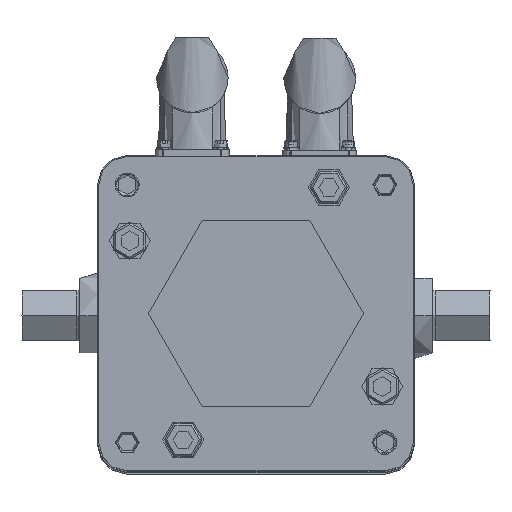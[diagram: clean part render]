
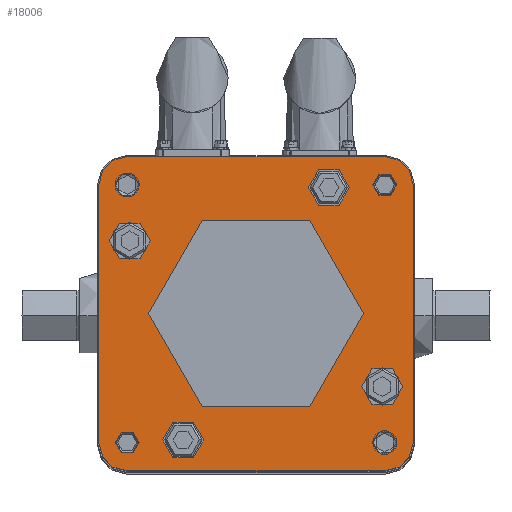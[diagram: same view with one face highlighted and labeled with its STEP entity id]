
A CAD part, top view. The second image highlights one B-rep face of the part: STEP entity #18006.
In plain terms, the highlighted planar face has unit normal (0, 0, 1).
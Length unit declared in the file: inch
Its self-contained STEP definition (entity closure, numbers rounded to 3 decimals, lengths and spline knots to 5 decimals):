
#2749=CARTESIAN_POINT('',(-1.775,-1.775,4.26));
#2750=DIRECTION('',(0.,0.,1.));
#2751=DIRECTION('',(-1.,0.,0.));
#2752=AXIS2_PLACEMENT_3D('',#2749,#2750,#2751);
#2754=CARTESIAN_POINT('',(-1.775,1.775,4.26));
#2755=DIRECTION('',(0.,0.,1.));
#2756=DIRECTION('',(0.,1.,0.));
#2757=AXIS2_PLACEMENT_3D('',#2754,#2755,#2756);
#2759=CARTESIAN_POINT('',(1.775,1.775,4.26));
#2760=DIRECTION('',(0.,0.,1.));
#2761=DIRECTION('',(1.,0.,0.));
#2762=AXIS2_PLACEMENT_3D('',#2759,#2760,#2761);
#2764=CARTESIAN_POINT('',(1.775,-1.775,4.26));
#2765=DIRECTION('',(0.,0.,1.));
#2766=DIRECTION('',(0.,-1.,0.));
#2767=AXIS2_PLACEMENT_3D('',#2764,#2765,#2766);
#2769=CARTESIAN_POINT('',(-1.,-1.73205,4.26));
#2770=DIRECTION('',(0.,0.,-1.));
#2771=DIRECTION('',(-1.,0.,0.));
#2772=AXIS2_PLACEMENT_3D('',#2769,#2770,#2771);
#2774=CARTESIAN_POINT('',(-1.,-1.73205,4.26));
#2775=DIRECTION('',(0.,0.,-1.));
#2776=DIRECTION('',(1.,0.,0.));
#2777=AXIS2_PLACEMENT_3D('',#2774,#2775,#2776);
#2779=CARTESIAN_POINT('',(1.,1.73205,4.26));
#2780=DIRECTION('',(0.,0.,-1.));
#2781=DIRECTION('',(-1.,0.,0.));
#2782=AXIS2_PLACEMENT_3D('',#2779,#2780,#2781);
#2784=CARTESIAN_POINT('',(1.,1.73205,4.26));
#2785=DIRECTION('',(0.,0.,-1.));
#2786=DIRECTION('',(1.,0.,0.));
#2787=AXIS2_PLACEMENT_3D('',#2784,#2785,#2786);
#2789=CARTESIAN_POINT('',(-1.76777,-1.76777,4.26));
#2790=DIRECTION('',(0.,0.,-1.));
#2791=DIRECTION('',(-1.,0.,0.));
#2792=AXIS2_PLACEMENT_3D('',#2789,#2790,#2791);
#2794=CARTESIAN_POINT('',(-1.76777,-1.76777,4.26));
#2795=DIRECTION('',(0.,0.,-1.));
#2796=DIRECTION('',(1.,0.,0.));
#2797=AXIS2_PLACEMENT_3D('',#2794,#2795,#2796);
#2799=CARTESIAN_POINT('',(0.,0.,4.26));
#2800=DIRECTION('',(0.,0.,-1.));
#2801=DIRECTION('',(1.,0.,0.));
#2802=AXIS2_PLACEMENT_3D('',#2799,#2800,#2801);
#2804=CARTESIAN_POINT('',(0.,0.,4.26));
#2805=DIRECTION('',(0.,0.,-1.));
#2806=DIRECTION('',(-1.,0.,0.));
#2807=AXIS2_PLACEMENT_3D('',#2804,#2805,#2806);
#2809=CARTESIAN_POINT('',(1.76777,1.76777,4.26));
#2810=DIRECTION('',(0.,0.,-1.));
#2811=DIRECTION('',(-1.,0.,0.));
#2812=AXIS2_PLACEMENT_3D('',#2809,#2810,#2811);
#2814=CARTESIAN_POINT('',(1.76777,1.76777,4.26));
#2815=DIRECTION('',(0.,0.,-1.));
#2816=DIRECTION('',(1.,0.,0.));
#2817=AXIS2_PLACEMENT_3D('',#2814,#2815,#2816);
#2819=CARTESIAN_POINT('',(1.76777,-1.76777,4.26));
#2820=DIRECTION('',(0.,0.,-1.));
#2821=DIRECTION('',(-1.,0.,0.));
#2822=AXIS2_PLACEMENT_3D('',#2819,#2820,#2821);
#2824=CARTESIAN_POINT('',(1.76777,-1.76777,4.26));
#2825=DIRECTION('',(0.,0.,-1.));
#2826=DIRECTION('',(1.,0.,0.));
#2827=AXIS2_PLACEMENT_3D('',#2824,#2825,#2826);
#2829=CARTESIAN_POINT('',(-1.76777,1.76777,4.26));
#2830=DIRECTION('',(0.,0.,-1.));
#2831=DIRECTION('',(-1.,0.,0.));
#2832=AXIS2_PLACEMENT_3D('',#2829,#2830,#2831);
#2834=CARTESIAN_POINT('',(-1.76777,1.76777,4.26));
#2835=DIRECTION('',(0.,0.,-1.));
#2836=DIRECTION('',(1.,0.,0.));
#2837=AXIS2_PLACEMENT_3D('',#2834,#2835,#2836);
#2839=CARTESIAN_POINT('',(1.73205,-1.,4.26));
#2840=DIRECTION('',(0.,0.,-1.));
#2841=DIRECTION('',(-1.,0.,0.));
#2842=AXIS2_PLACEMENT_3D('',#2839,#2840,#2841);
#2844=CARTESIAN_POINT('',(1.73205,-1.,4.26));
#2845=DIRECTION('',(0.,0.,-1.));
#2846=DIRECTION('',(1.,0.,0.));
#2847=AXIS2_PLACEMENT_3D('',#2844,#2845,#2846);
#2849=CARTESIAN_POINT('',(-1.73205,1.,4.26));
#2850=DIRECTION('',(0.,0.,-1.));
#2851=DIRECTION('',(-1.,0.,0.));
#2852=AXIS2_PLACEMENT_3D('',#2849,#2850,#2851);
#2854=CARTESIAN_POINT('',(-1.73205,1.,4.26));
#2855=DIRECTION('',(0.,0.,-1.));
#2856=DIRECTION('',(1.,0.,0.));
#2857=AXIS2_PLACEMENT_3D('',#2854,#2855,#2856);
#2859=DIRECTION('',(-1.,0.,0.));
#2860=VECTOR('',#2859,3.55);
#2861=CARTESIAN_POINT('',(1.775,-2.155,4.26));
#2862=LINE('',#2861,#2860);
#2919=DIRECTION('',(0.,-1.,0.));
#2920=VECTOR('',#2919,3.55);
#2921=CARTESIAN_POINT('',(2.155,1.775,4.26));
#2922=LINE('',#2921,#2920);
#2931=DIRECTION('',(1.,0.,0.));
#2932=VECTOR('',#2931,3.55);
#2933=CARTESIAN_POINT('',(-1.775,2.155,4.26));
#2934=LINE('',#2933,#2932);
#2943=DIRECTION('',(0.,1.,0.));
#2944=VECTOR('',#2943,3.55);
#2945=CARTESIAN_POINT('',(-2.155,-1.775,4.26));
#2946=LINE('',#2945,#2944);
#16903=CARTESIAN_POINT('',(-2.155,-1.775,4.26));
#16904=CARTESIAN_POINT('',(-1.775,-2.155,4.26));
#16905=VERTEX_POINT('',#16903);
#16906=VERTEX_POINT('',#16904);
#16923=CARTESIAN_POINT('',(-1.93115,1.76777,4.26));
#16924=CARTESIAN_POINT('',(-1.60438,1.76777,4.26));
#16925=VERTEX_POINT('',#16923);
#16926=VERTEX_POINT('',#16924);
#16927=CARTESIAN_POINT('',(1.60438,-1.76777,4.26));
#16928=CARTESIAN_POINT('',(1.93115,-1.76777,4.26));
#16929=VERTEX_POINT('',#16927);
#16930=VERTEX_POINT('',#16928);
#16931=CARTESIAN_POINT('',(1.45079,-1.,4.26));
#16932=CARTESIAN_POINT('',(2.01331,-1.,4.26));
#16933=VERTEX_POINT('',#16931);
#16934=VERTEX_POINT('',#16932);
#16935=CARTESIAN_POINT('',(1.47638,0.,4.26));
#16936=CARTESIAN_POINT('',(-1.47638,0.,4.26));
#16937=VERTEX_POINT('',#16935);
#16938=VERTEX_POINT('',#16936);
#16977=CARTESIAN_POINT('',(-1.775,2.155,4.26));
#16978=CARTESIAN_POINT('',(1.775,2.155,4.26));
#16979=VERTEX_POINT('',#16977);
#16980=VERTEX_POINT('',#16978);
#16981=CARTESIAN_POINT('',(-2.155,1.775,4.26));
#16982=VERTEX_POINT('',#16981);
#16987=CARTESIAN_POINT('',(-1.93115,-1.76777,4.26));
#16988=CARTESIAN_POINT('',(-1.60438,-1.76777,4.26));
#16989=VERTEX_POINT('',#16987);
#16990=VERTEX_POINT('',#16988);
#17013=CARTESIAN_POINT('',(0.71874,1.73205,4.26));
#17014=CARTESIAN_POINT('',(1.28126,1.73205,4.26));
#17015=VERTEX_POINT('',#17013);
#17016=VERTEX_POINT('',#17014);
#17017=CARTESIAN_POINT('',(-2.01331,1.,4.26));
#17018=CARTESIAN_POINT('',(-1.45079,1.,4.26));
#17019=VERTEX_POINT('',#17017);
#17020=VERTEX_POINT('',#17018);
#17021=CARTESIAN_POINT('',(1.60438,1.76777,4.26));
#17022=CARTESIAN_POINT('',(1.93115,1.76777,4.26));
#17023=VERTEX_POINT('',#17021);
#17024=VERTEX_POINT('',#17022);
#17025=CARTESIAN_POINT('',(-1.28126,-1.73205,4.26));
#17026=CARTESIAN_POINT('',(-0.71874,-1.73205,4.26));
#17027=VERTEX_POINT('',#17025);
#17028=VERTEX_POINT('',#17026);
#17031=CARTESIAN_POINT('',(1.775,-2.155,4.26));
#17032=CARTESIAN_POINT('',(2.155,-1.775,4.26));
#17033=VERTEX_POINT('',#17031);
#17034=VERTEX_POINT('',#17032);
#17035=CARTESIAN_POINT('',(2.155,1.775,4.26));
#17036=VERTEX_POINT('',#17035);
#17931=CARTESIAN_POINT('',(2.155,2.155,4.26));
#17932=DIRECTION('',(0.,0.,-1.));
#17933=DIRECTION('',(-1.,0.,0.));
#17934=AXIS2_PLACEMENT_3D('',#17931,#17932,#17933);
#17935=PLANE('',#17934);
#17937=ORIENTED_EDGE('',*,*,#17936,.T.);
#17939=ORIENTED_EDGE('',*,*,#17938,.F.);
#17941=ORIENTED_EDGE('',*,*,#17940,.T.);
#17943=ORIENTED_EDGE('',*,*,#17942,.F.);
#17945=ORIENTED_EDGE('',*,*,#17944,.T.);
#17947=ORIENTED_EDGE('',*,*,#17946,.F.);
#17949=ORIENTED_EDGE('',*,*,#17948,.T.);
#17951=ORIENTED_EDGE('',*,*,#17950,.F.);
#17952=EDGE_LOOP('',(#17937,#17939,#17941,#17943,#17945,#17947,#17949,#17951));
#17953=FACE_OUTER_BOUND('',#17952,.F.);
#17955=ORIENTED_EDGE('',*,*,#17954,.F.);
#17957=ORIENTED_EDGE('',*,*,#17956,.F.);
#17958=EDGE_LOOP('',(#17955,#17957));
#17959=FACE_BOUND('',#17958,.F.);
#17961=ORIENTED_EDGE('',*,*,#17960,.F.);
#17963=ORIENTED_EDGE('',*,*,#17962,.F.);
#17964=EDGE_LOOP('',(#17961,#17963));
#17965=FACE_BOUND('',#17964,.F.);
#17967=ORIENTED_EDGE('',*,*,#17966,.F.);
#17969=ORIENTED_EDGE('',*,*,#17968,.F.);
#17970=EDGE_LOOP('',(#17967,#17969));
#17971=FACE_BOUND('',#17970,.F.);
#17973=ORIENTED_EDGE('',*,*,#17972,.F.);
#17975=ORIENTED_EDGE('',*,*,#17974,.F.);
#17976=EDGE_LOOP('',(#17973,#17975));
#17977=FACE_BOUND('',#17976,.F.);
#17979=ORIENTED_EDGE('',*,*,#17978,.F.);
#17981=ORIENTED_EDGE('',*,*,#17980,.F.);
#17982=EDGE_LOOP('',(#17979,#17981));
#17983=FACE_BOUND('',#17982,.F.);
#17985=ORIENTED_EDGE('',*,*,#17984,.F.);
#17987=ORIENTED_EDGE('',*,*,#17986,.F.);
#17988=EDGE_LOOP('',(#17985,#17987));
#17989=FACE_BOUND('',#17988,.F.);
#17990=ORIENTED_EDGE('',*,*,#17910,.F.);
#17991=ORIENTED_EDGE('',*,*,#17925,.F.);
#17992=EDGE_LOOP('',(#17990,#17991));
#17993=FACE_BOUND('',#17992,.F.);
#17995=ORIENTED_EDGE('',*,*,#17994,.F.);
#17997=ORIENTED_EDGE('',*,*,#17996,.F.);
#17998=EDGE_LOOP('',(#17995,#17997));
#17999=FACE_BOUND('',#17998,.F.);
#18001=ORIENTED_EDGE('',*,*,#18000,.F.);
#18003=ORIENTED_EDGE('',*,*,#18002,.F.);
#18004=EDGE_LOOP('',(#18001,#18003));
#18005=FACE_BOUND('',#18004,.F.);
#18006=ADVANCED_FACE('',(#17953,#17959,#17965,#17971,#17977,#17983,#17989,
#17993,#17999,#18005),#17935,.F.);
#2753=CIRCLE('',#2752,0.38);
#2758=CIRCLE('',#2757,0.38);
#2763=CIRCLE('',#2762,0.38);
#2768=CIRCLE('',#2767,0.38);
#2773=CIRCLE('',#2772,0.28126);
#2778=CIRCLE('',#2777,0.28126);
#2783=CIRCLE('',#2782,0.28126);
#2788=CIRCLE('',#2787,0.28126);
#2793=CIRCLE('',#2792,0.16339);
#2798=CIRCLE('',#2797,0.16339);
#2803=CIRCLE('',#2802,1.47638);
#2808=CIRCLE('',#2807,1.47638);
#2813=CIRCLE('',#2812,0.16339);
#2818=CIRCLE('',#2817,0.16339);
#2823=CIRCLE('',#2822,0.16339);
#2828=CIRCLE('',#2827,0.16339);
#2833=CIRCLE('',#2832,0.16339);
#2838=CIRCLE('',#2837,0.16339);
#2843=CIRCLE('',#2842,0.28126);
#2848=CIRCLE('',#2847,0.28126);
#2853=CIRCLE('',#2852,0.28126);
#2858=CIRCLE('',#2857,0.28126);
#17910=EDGE_CURVE('',#16925,#16926,#2833,.T.);
#17925=EDGE_CURVE('',#16926,#16925,#2838,.T.);
#17936=EDGE_CURVE('',#17033,#16906,#2862,.T.);
#17938=EDGE_CURVE('',#16905,#16906,#2753,.T.);
#17940=EDGE_CURVE('',#16905,#16982,#2946,.T.);
#17942=EDGE_CURVE('',#16979,#16982,#2758,.T.);
#17944=EDGE_CURVE('',#16979,#16980,#2934,.T.);
#17946=EDGE_CURVE('',#17036,#16980,#2763,.T.);
#17948=EDGE_CURVE('',#17036,#17034,#2922,.T.);
#17950=EDGE_CURVE('',#17033,#17034,#2768,.T.);
#17954=EDGE_CURVE('',#17027,#17028,#2773,.T.);
#17956=EDGE_CURVE('',#17028,#17027,#2778,.T.);
#17960=EDGE_CURVE('',#17015,#17016,#2783,.T.);
#17962=EDGE_CURVE('',#17016,#17015,#2788,.T.);
#17966=EDGE_CURVE('',#16989,#16990,#2793,.T.);
#17968=EDGE_CURVE('',#16990,#16989,#2798,.T.);
#17972=EDGE_CURVE('',#16937,#16938,#2803,.T.);
#17974=EDGE_CURVE('',#16938,#16937,#2808,.T.);
#17978=EDGE_CURVE('',#17023,#17024,#2813,.T.);
#17980=EDGE_CURVE('',#17024,#17023,#2818,.T.);
#17984=EDGE_CURVE('',#16929,#16930,#2823,.T.);
#17986=EDGE_CURVE('',#16930,#16929,#2828,.T.);
#17994=EDGE_CURVE('',#16933,#16934,#2843,.T.);
#17996=EDGE_CURVE('',#16934,#16933,#2848,.T.);
#18000=EDGE_CURVE('',#17019,#17020,#2853,.T.);
#18002=EDGE_CURVE('',#17020,#17019,#2858,.T.);
